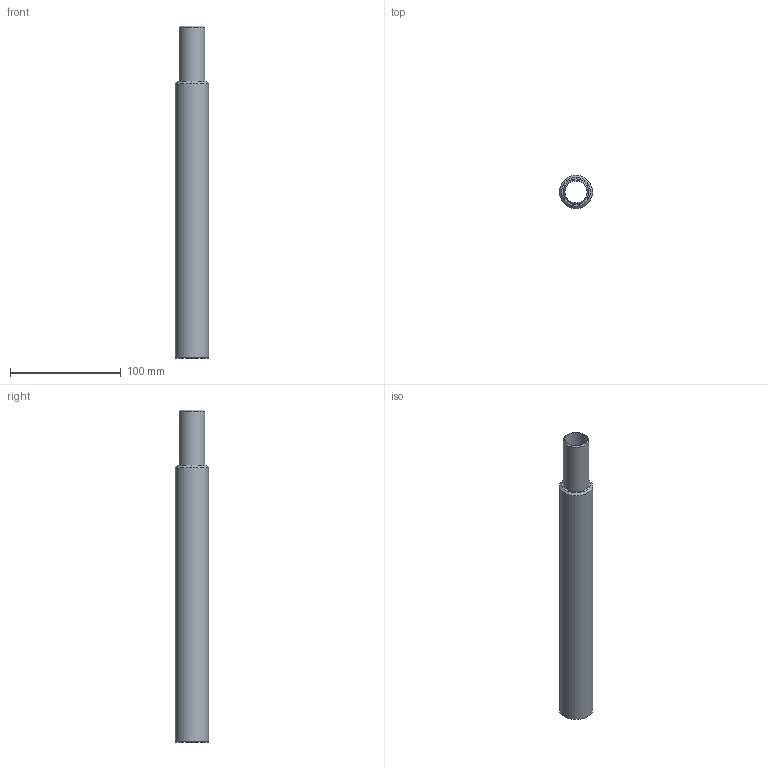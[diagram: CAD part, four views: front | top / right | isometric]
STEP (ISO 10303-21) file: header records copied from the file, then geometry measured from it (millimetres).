
FILE_DESCRIPTION(('FreeCAD Model'),'2;1');
FILE_NAME('Open CASCADE Shape Model','2024-05-27T20:00:59',(''),(''), 'Open CASCADE STEP processor 7.6','FreeCAD','Unknown');
FILE_SCHEMA(('AUTOMOTIVE_DESIGN { 1 0 10303 214 1 1 1 1 }'));
Length unit declared in the file: millimetre
Products named in the file (1): Körper
Bounding box: 30 x 30 x 300 mm (x, y, z)
Volume: 97373.6 mm3; surface area: 47067.1 mm2
Topology: 1 solids, 1 shells, 13 faces, 22 edges, 13 vertices
Faces by surface type: cone 5, cylinder 4, plane 4
Full cylindrical faces by diameter (mm): 20 x1, 23 x1, 23.1 x1, 30 x1
Entity records: 335 total; most frequent: DIRECTION 63, CARTESIAN_POINT 49, ORIENTED_EDGE 44, AXIS2_PLACEMENT_3D 27, EDGE_CURVE 22, FACE_BOUND 17, EDGE_LOOP 17, ADVANCED_FACE 13
